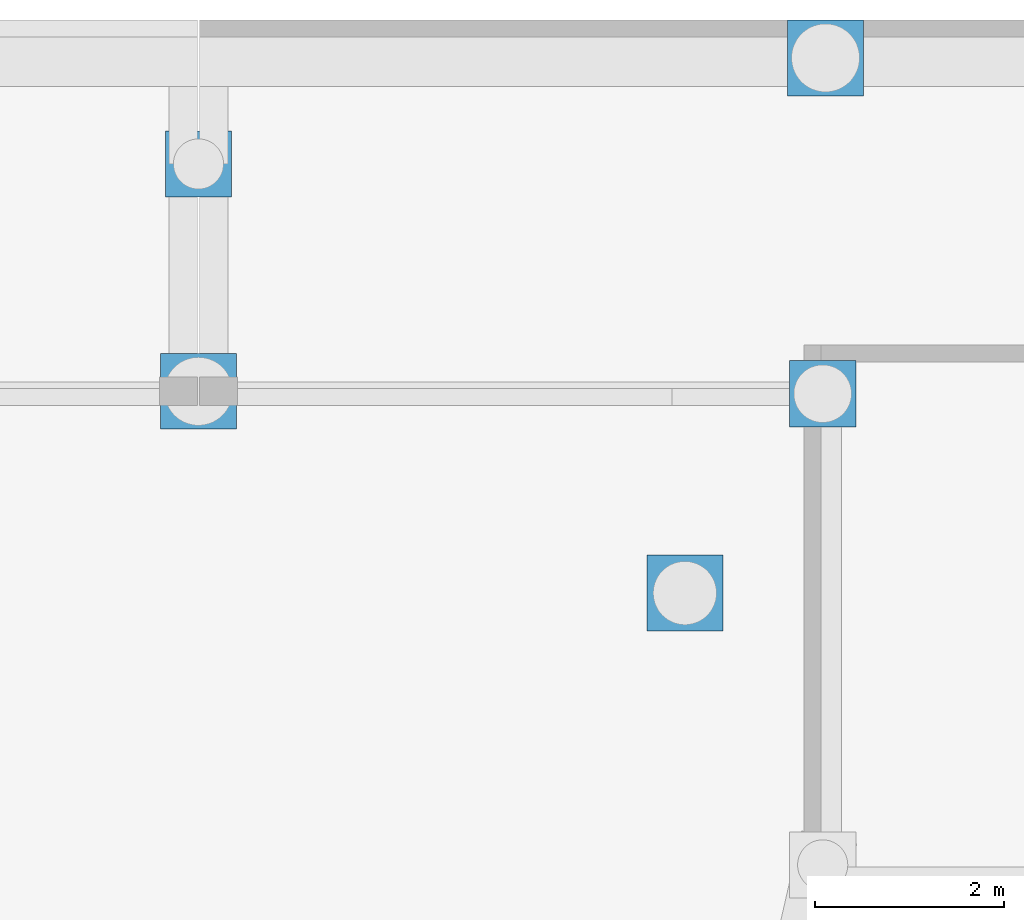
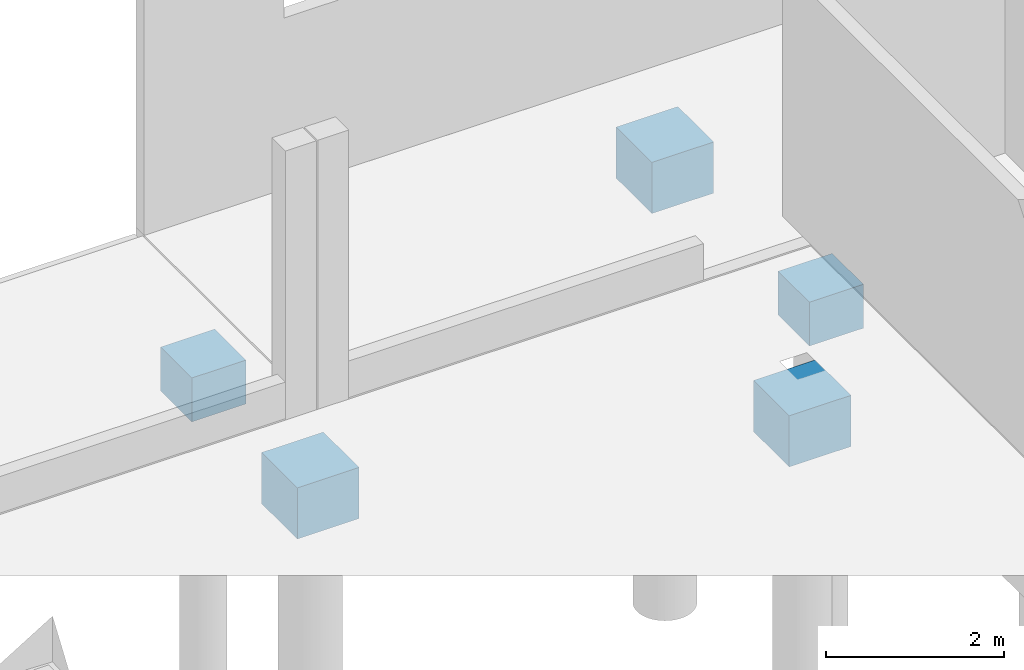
# One storey, part 16 of 29: 5 slabs.
"""IFC2X3 building model written with IfcOpenShell, lengths in centimetres."""

from ifc_helpers import new_model, entity, si_unit, converted_unit, derived_unit, direction, frame, origin, place, context, subcontext, project, spatial, faceted_brep, material, element, save


model = new_model("IFC2X3")

# Units and contexts
model_context = context("Model", 3, precision=0.001, world=origin(), true_north=direction((6.12303176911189e-17, 1.0)))
body_context = subcontext(model_context, "Body", "Model", "MODEL_VIEW")
ifc_project = project(units=[si_unit("LENGTHUNIT", "METRE", prefix="CENTI"), si_unit("AREAUNIT", "SQUARE_METRE"), si_unit("VOLUMEUNIT", "CUBIC_METRE"), converted_unit("PLANEANGLEUNIT", "DEGREE", entity("IfcRatioMeasure", 0.0174532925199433), si_unit("PLANEANGLEUNIT", "RADIAN"), dimensions=[0, 0, 0, 0, 0, 0, 0]), si_unit("MASSUNIT", "GRAM", prefix="KILO"), derived_unit("MASSDENSITYUNIT", [(si_unit("MASSUNIT", "GRAM", prefix="KILO"), 1), (si_unit("LENGTHUNIT", "METRE"), -3)]), si_unit("TIMEUNIT", "SECOND"), si_unit("FREQUENCYUNIT", "HERTZ"), si_unit("THERMODYNAMICTEMPERATUREUNIT", "DEGREE_CELSIUS"), derived_unit("THERMALTRANSMITTANCEUNIT", [(si_unit("MASSUNIT", "GRAM", prefix="KILO"), 1), (si_unit("THERMODYNAMICTEMPERATUREUNIT", "KELVIN"), -1), (si_unit("TIMEUNIT", "SECOND"), -3)]), derived_unit("VOLUMETRICFLOWRATEUNIT", [(si_unit("LENGTHUNIT", "METRE"), 3), (si_unit("TIMEUNIT", "SECOND"), -1)]), si_unit("ELECTRICCURRENTUNIT", "AMPERE"), si_unit("ELECTRICVOLTAGEUNIT", "VOLT"), si_unit("POWERUNIT", "WATT"), si_unit("FORCEUNIT", "NEWTON"), si_unit("ILLUMINANCEUNIT", "LUX"), si_unit("LUMINOUSFLUXUNIT", "LUMEN"), si_unit("LUMINOUSINTENSITYUNIT", "CANDELA"), derived_unit("USERDEFINED", [(si_unit("MASSUNIT", "GRAM", prefix="KILO"), -1), (si_unit("LENGTHUNIT", "METRE"), -2), (si_unit("TIMEUNIT", "SECOND"), 3), (si_unit("LUMINOUSFLUXUNIT", "LUMEN"), 1)]), derived_unit("LINEARVELOCITYUNIT", [(si_unit("LENGTHUNIT", "METRE"), 1), (si_unit("TIMEUNIT", "SECOND"), -1)]), si_unit("PRESSUREUNIT", "PASCAL"), derived_unit("USERDEFINED", [(si_unit("LENGTHUNIT", "METRE"), -2), (si_unit("MASSUNIT", "GRAM", prefix="KILO"), 1), (si_unit("TIMEUNIT", "SECOND"), -2)])], contexts=[model_context])

# Site, building, storey
site_placement = place(None, origin())
site = spatial("IfcSite", under=ifc_project, at=site_placement, Name="Default", CompositionType="ELEMENT")
building_placement = place(site_placement, origin())
building = spatial("IfcBuilding", under=site, at=building_placement, Name="CAGE 03", CompositionType="ELEMENT")
storey_placement = place(building_placement, frame((0.0, 0.0, -26.0)))
storey = spatial("IfcBuildingStorey", under=building, at=storey_placement, Name="+3.74", CompositionType="ELEMENT", Elevation=-26.0000000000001)

# Slabs
ifc_material = material(Name="Béton, C25/30")
slab_1_placement = place(storey_placement, frame((5847.86582014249, 4648.6606660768, -102.0)))
element("IfcSlab", 1, at=slab_1_placement, inside=storey, material=ifc_material, Name="M_Base-Rectangulaire:80x80x70ht", ObjectType="M_Base-Rectangulaire:80x80x70ht", PredefinedType="BASESLAB", context=body_context, shape_type="Brep", body=[
    faceted_brep([(80.0, 80.0, 70.0), (0.0, 80.0, 70.0), (0.0, 0.0, 70.0), (80.0, 0.0, 70.0), (0.0, 0.0, 0.0), (6.50000000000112, 40.0, 0.0), (8.6858003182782, 34.3577989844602, 0.0), (0.0, 80.0, 0.0), (10.8716006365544, 28.71559796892, 0.0), (13.0574009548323, 23.0733969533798, 0.0), (15.2432012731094, 17.4311959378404, 0.0), (22.2051484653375, 14.7341232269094, 0.0), (29.1670956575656, 12.0370505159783, 0.0), (36.1290428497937, 9.33997780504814, 0.0), (43.0909900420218, 6.6429050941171, 0.0), (80.0, 0.0, 0.0), (8.68580031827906, 45.6422010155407, 0.0), (10.8716006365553, 51.28440203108, 0.0), (13.0574009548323, 56.9266030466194, 0.0), (15.2432012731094, 62.5688040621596, 0.0), (20.6596534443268, 65.2658767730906, 0.0), (26.0761056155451, 67.9629494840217, 0.0), (31.4925577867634, 70.6600221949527, 0.0), (36.9090099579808, 73.3570949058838, 0.0), (80.0, 80.0, 0.0), (73.5000000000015, 40.0, 0.0), (71.3141996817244, 45.6422010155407, 0.0), (69.1283993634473, 51.28440203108, 0.0), (66.9425990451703, 56.9266030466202, 0.0), (64.7567987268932, 62.5688040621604, 0.0), (57.7948515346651, 65.2658767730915, 0.0), (50.8329043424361, 67.9629494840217, 0.0), (43.8709571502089, 70.6600221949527, 0.0), (48.5074422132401, 9.33997780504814, 0.0), (53.9238943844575, 12.0370505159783, 0.0), (59.3403465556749, 14.7341232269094, 0.0), (64.7567987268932, 17.4311959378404, 0.0), (66.9425990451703, 23.0733969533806, 0.0), (69.1283993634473, 28.7155979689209, 0.0), (71.3141996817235, 34.3577989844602, 0.0), (64.7567987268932, 17.4311959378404, 5.0), (57.7948515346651, 14.7341232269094, 5.0), (50.8329043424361, 12.0370505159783, 5.0), (43.8709571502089, 9.33997780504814, 5.0), (36.9090099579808, 6.6429050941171, 5.0), (31.4925577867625, 9.33997780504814, 5.0), (26.0761056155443, 12.0370505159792, 5.0), (20.6596534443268, 14.7341232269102, 5.0), (15.2432012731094, 17.4311959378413, 5.0), (13.0574009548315, 23.0733969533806, 5.0), (10.8716006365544, 28.7155979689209, 5.0), (9.32055531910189, 32.7193074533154, 5.0), (6.50000000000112, 40.0, 5.0), (9.32055531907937, 47.280692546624, 5.0), (10.8716006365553, 51.28440203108, 5.0), (13.0574009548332, 56.9266030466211, 5.0), (15.2432012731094, 62.5688040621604, 5.0), (22.2051484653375, 65.2658767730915, 5.0), (29.1670956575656, 67.9629494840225, 5.0), (36.1290428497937, 70.6600221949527, 5.0), (43.0909900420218, 73.3570949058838, 5.0), (48.5074422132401, 70.6600221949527, 5.0), (53.9238943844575, 67.9629494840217, 5.0), (59.3403465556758, 65.2658767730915, 5.0), (64.7567987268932, 62.5688040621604, 5.0), (66.9425990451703, 56.9266030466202, 5.0), (69.1283993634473, 51.28440203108, 5.0), (70.6794446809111, 47.2806925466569, 5.0), (73.5000000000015, 40.0, 5.0), (70.679444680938, 32.7193074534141, 5.0), (69.1283993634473, 28.7155979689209, 5.0), (66.9425990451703, 23.0733969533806, 5.0)], [[[0, 1, 2, 3]], [[4, 5, 6]], [[5, 4, 7]], [[4, 6, 8]], [[4, 8, 9]], [[4, 9, 10]], [[4, 10, 11]], [[4, 11, 12]], [[4, 12, 13]], [[4, 13, 14]], [[14, 15, 4]], [[7, 16, 5]], [[7, 17, 16]], [[7, 18, 17]], [[7, 19, 18]], [[7, 20, 19]], [[7, 21, 20]], [[7, 22, 21]], [[7, 23, 22]], [[23, 7, 24]], [[25, 24, 15]], [[24, 25, 26]], [[24, 26, 27]], [[24, 27, 28]], [[24, 28, 29]], [[24, 29, 30]], [[24, 30, 31]], [[24, 31, 32]], [[24, 32, 23]], [[15, 14, 33]], [[15, 33, 34]], [[15, 34, 35]], [[15, 35, 36]], [[15, 36, 37]], [[15, 37, 38]], [[15, 38, 39]], [[15, 39, 25]], [[2, 1, 7, 4]], [[3, 2, 4, 15]], [[0, 3, 15, 24]], [[1, 0, 24, 7]], [[40, 41, 42, 43, 44, 45, 46, 47, 48, 49, 50, 51, 52, 53, 54, 55, 56, 57, 58, 59, 60, 61, 62, 63, 64, 65, 66, 67, 68, 69, 70, 71]], [[6, 5, 52, 51, 50, 49, 48, 10, 9, 8]], [[39, 38, 37, 36, 40, 71, 70, 69, 68, 25]], [[48, 47, 10]], [[47, 46, 11]], [[36, 35, 40]], [[42, 33, 43]], [[35, 41, 40]], [[14, 13, 44]], [[12, 11, 46]], [[47, 11, 10]], [[35, 34, 41]], [[41, 34, 42]], [[12, 45, 13]], [[14, 43, 33]], [[42, 34, 33]], [[44, 13, 45]], [[12, 46, 45]], [[14, 44, 43]], [[26, 25, 68, 67, 66, 65, 64, 29, 28, 27]], [[16, 17, 18, 19, 56, 55, 54, 53, 52, 5]], [[64, 63, 29]], [[63, 62, 30]], [[19, 20, 56]], [[58, 22, 59]], [[20, 57, 56]], [[23, 32, 60]], [[31, 30, 62]], [[63, 30, 29]], [[20, 21, 57]], [[57, 21, 58]], [[31, 61, 32]], [[23, 59, 22]], [[58, 21, 22]], [[60, 32, 61]], [[31, 62, 61]], [[23, 60, 59]]]),
])
slab_2_placement = place(storey_placement, frame((5339.36582014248, 5106.66066607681, -140.0)))
element("IfcSlab", 2, at=slab_2_placement, inside=storey, material=ifc_material, Name="M_Base-Rectangulaire:70x70x60ht", ObjectType="M_Base-Rectangulaire:70x70x60ht", PredefinedType="BASESLAB", context=body_context, shape_type="Brep", body=[
    faceted_brep([(70.0, 70.0, 60.0), (0.0, 70.0, 60.0), (0.0, 0.0, 60.0), (70.0, 0.0, 60.0), (0.0, 0.0, 0.0), (17.2680389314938, 15.306662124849, 0.0), (22.3935302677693, 13.6412890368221, 0.0), (27.5190216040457, 11.9759159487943, 0.0), (32.6445129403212, 10.3105428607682, 0.0), (37.7700042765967, 8.64516977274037, 0.0), (70.0, 0.0, 0.0), (15.0760291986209, 20.2299965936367, 0.0), (12.884019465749, 25.1533310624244, 0.0), (10.692009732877, 30.0766655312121, 0.0), (8.50000000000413, 35.0, 0.0), (0.0, 70.0, 0.0), (11.0305248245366, 42.7881545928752, 0.0), (13.5610496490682, 50.5763091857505, 0.0), (18.2282861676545, 53.2709394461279, 0.0), (22.8955226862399, 55.9655697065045, 0.0), (27.5627592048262, 58.6601999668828, 0.0), (32.2299957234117, 61.3548302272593, 0.0), (70.0, 70.0, 0.0), (61.5000000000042, 35.0, 0.0), (59.3079902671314, 39.9233344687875, 0.0), (37.3554870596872, 59.6894571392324, 0.0), (42.4809783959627, 58.0240840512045, 0.0), (47.6064697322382, 56.3587109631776, 0.0), (52.7319610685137, 54.6933378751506, 0.0), (57.1159805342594, 44.8466689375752, 0.0), (54.9239708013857, 49.7700034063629, 0.0), (42.437240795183, 11.3398000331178, 0.0), (47.1044773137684, 14.0344302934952, 0.0), (51.7717138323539, 16.7290605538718, 0.0), (56.4389503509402, 19.4236908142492, 0.0), (58.9694751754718, 27.2118454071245, 0.0), (8.50000000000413, 35.0, 5.0), (10.692009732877, 39.9233344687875, 5.0), (12.884019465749, 44.8466689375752, 5.0), (15.0760291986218, 49.7700034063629, 5.0), (17.2680389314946, 54.6933378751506, 5.0), (22.3935302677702, 56.3587109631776, 5.0), (27.5190216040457, 58.0240840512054, 5.0), (32.6445129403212, 59.6894571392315, 5.0), (37.7700042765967, 61.3548302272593, 5.0), (42.437240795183, 58.6601999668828, 5.0), (47.1044773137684, 55.9655697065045, 5.0), (51.7717138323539, 53.2709394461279, 5.0), (56.4389503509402, 50.5763091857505, 5.0), (58.9694751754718, 42.7881545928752, 5.0), (61.5000000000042, 35.0, 5.0), (59.3079902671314, 30.0766655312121, 5.0), (57.1159805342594, 25.1533310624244, 5.0), (54.9239708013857, 20.2299965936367, 5.0), (52.7319610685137, 15.306662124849, 5.0), (47.6064697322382, 13.6412890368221, 5.0), (42.4809783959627, 11.9759159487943, 5.0), (37.3554870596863, 10.3105428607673, 5.0), (32.2299957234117, 8.64516977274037, 5.0), (27.5627592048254, 11.3398000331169, 5.0), (22.895522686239, 14.0344302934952, 5.0), (18.2282861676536, 16.7290605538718, 5.0), (13.5610496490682, 19.4236908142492, 5.0), (11.0305248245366, 27.2118454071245, 5.0)], [[[0, 1, 2, 3]], [[4, 5, 6]], [[4, 6, 7]], [[4, 7, 8]], [[4, 8, 9]], [[4, 9, 10]], [[4, 11, 5]], [[4, 12, 11]], [[4, 13, 12]], [[4, 14, 13]], [[15, 14, 4]], [[15, 16, 14]], [[15, 17, 16]], [[15, 18, 17]], [[15, 19, 18]], [[15, 20, 19]], [[15, 21, 20]], [[22, 21, 15]], [[10, 23, 22]], [[22, 23, 24]], [[22, 25, 21]], [[22, 26, 25]], [[22, 27, 26]], [[22, 28, 27]], [[22, 24, 29]], [[22, 29, 30]], [[22, 30, 28]], [[10, 9, 31]], [[10, 31, 32]], [[10, 32, 33]], [[10, 33, 34]], [[10, 34, 35]], [[10, 35, 23]], [[2, 1, 15, 4]], [[3, 2, 4, 10]], [[0, 3, 10, 22]], [[1, 0, 22, 15]], [[36, 37, 38, 39, 40, 41, 42, 43, 44, 45, 46, 47, 48, 49, 50, 51, 52, 53, 54, 55, 56, 57, 58, 59, 60, 61, 62, 63]], [[11, 12, 62]], [[63, 13, 36]], [[63, 62, 12]], [[62, 61, 11]], [[35, 34, 52]], [[59, 58, 7]], [[36, 13, 14]], [[32, 55, 33]], [[6, 5, 60]], [[34, 33, 54]], [[35, 51, 23]], [[7, 58, 8]], [[60, 5, 61]], [[12, 13, 63]], [[57, 8, 58]], [[61, 5, 11]], [[56, 55, 32]], [[6, 59, 7]], [[54, 33, 55]], [[53, 52, 34, 54]], [[57, 9, 8]], [[31, 9, 56, 32]], [[6, 60, 59]], [[50, 23, 51]], [[57, 56, 9]], [[35, 52, 51]], [[30, 29, 48]], [[49, 24, 50]], [[49, 48, 29]], [[48, 47, 30]], [[46, 28, 47]], [[45, 27, 46]], [[50, 24, 23]], [[21, 43, 20]], [[45, 44, 26]], [[39, 38, 17, 40]], [[16, 37, 14]], [[26, 44, 25]], [[29, 24, 49]], [[43, 21, 25]], [[47, 28, 30]], [[42, 41, 19]], [[27, 28, 46]], [[16, 17, 38]], [[45, 26, 27]], [[36, 14, 37]], [[42, 20, 43]], [[40, 18, 41]], [[19, 41, 18]], [[40, 17, 18]], [[43, 25, 44]], [[42, 19, 20]], [[16, 38, 37]]]),
])
slab_3_placement = place(storey_placement, frame((5996.36582014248, 5213.6606660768, -150.0)))
element("IfcSlab", 3, at=slab_3_placement, inside=storey, material=ifc_material, Name="M_Base-Rectangulaire:80x80x70ht", ObjectType="M_Base-Rectangulaire:80x80x70ht", PredefinedType="BASESLAB", context=body_context, shape_type="Brep", body=[
    faceted_brep([(40.0, 80.0, 70.0), (0.0, 80.0, 70.0), (0.0, 0.0, 70.0), (80.0, 0.0, 70.0), (80.0, 80.0, 70.0), (0.0, 0.0, 0.0), (4.0, 40.0, 0.0), (6.34891974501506, 33.9367392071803, 0.0), (0.0, 80.0, 0.0), (8.69783949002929, 27.8734784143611, 0.0), (11.0467592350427, 21.8102176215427, 0.0), (13.3956789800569, 15.7469568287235, 0.0), (20.8771744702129, 12.8486100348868, 0.0), (28.3586699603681, 9.9502632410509, 0.0), (35.8401654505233, 7.05191644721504, 0.0), (43.3216609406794, 4.15356965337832, 0.0), (80.0, 0.0, 0.0), (6.34891974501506, 46.0632607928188, 0.0), (8.69783949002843, 52.126521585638, 0.0), (11.0467592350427, 58.1897823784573, 0.0), (13.3956789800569, 64.2530431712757, 0.0), (19.2163439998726, 67.1513899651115, 0.0), (25.0370090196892, 70.0497367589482, 0.0), (30.8576740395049, 72.9480835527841, 0.0), (36.6783390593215, 75.8464303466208, 0.0), (80.0, 80.0, 0.0), (76.0, 40.0, 0.0), (73.6510802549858, 46.0632607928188, 0.0), (71.3021605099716, 52.126521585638, 0.0), (68.9532407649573, 58.1897823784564, 0.0), (66.604321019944, 64.2530431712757, 0.0), (59.1228255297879, 67.1513899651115, 0.0), (51.6413300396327, 70.0497367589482, 0.0), (44.1598345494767, 72.948083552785, 0.0), (49.1423259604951, 7.05191644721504, 0.0), (54.9629909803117, 9.9502632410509, 0.0), (60.7836560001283, 12.8486100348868, 0.0), (66.604321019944, 15.7469568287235, 0.0), (68.9532407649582, 21.8102176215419, 0.0), (71.3021605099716, 27.8734784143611, 0.0), (73.6510802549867, 33.9367392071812, 0.0), (66.6043210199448, 15.7469568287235, 5.0), (59.1228255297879, 12.8486100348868, 5.0), (51.6413300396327, 9.9502632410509, 5.0), (44.1598345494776, 7.05191644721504, 5.0), (36.6783390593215, 4.15356965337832, 5.0), (30.8576740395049, 7.05191644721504, 5.0), (25.0370090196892, 9.9502632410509, 5.0), (19.2163439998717, 12.8486100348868, 5.0), (13.3956789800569, 15.7469568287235, 5.0), (11.0467592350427, 21.8102176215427, 5.0), (8.69783949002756, 27.8734784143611, 5.0), (6.92390641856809, 32.4525275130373, 5.0), (4.0, 40.0, 5.0), (6.92390641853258, 47.5474724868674, 5.0), (8.69783949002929, 52.126521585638, 5.0), (11.0467592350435, 58.1897823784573, 5.0), (13.3956789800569, 64.2530431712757, 5.0), (20.8771744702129, 67.1513899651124, 5.0), (28.3586699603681, 70.0497367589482, 5.0), (35.8401654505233, 72.9480835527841, 5.0), (43.3216609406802, 75.8464303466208, 5.0), (49.142325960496, 72.9480835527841, 5.0), (54.9629909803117, 70.0497367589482, 5.0), (60.7836560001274, 67.1513899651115, 5.0), (66.6043210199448, 64.2530431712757, 5.0), (68.9532407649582, 58.1897823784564, 5.0), (71.3021605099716, 52.1265215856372, 5.0), (73.0760935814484, 47.5474724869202, 5.0), (76.0, 40.0, 5.0), (73.0760935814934, 32.452527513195, 5.0), (71.3021605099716, 27.8734784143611, 5.0), (68.9532407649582, 21.8102176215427, 5.0)], [[[0, 1, 2, 3, 4]], [[5, 6, 7]], [[6, 5, 8]], [[5, 7, 9]], [[5, 9, 10]], [[5, 10, 11]], [[5, 11, 12]], [[5, 12, 13]], [[5, 13, 14]], [[5, 14, 15]], [[15, 16, 5]], [[8, 17, 6]], [[8, 18, 17]], [[8, 19, 18]], [[8, 20, 19]], [[8, 21, 20]], [[8, 22, 21]], [[8, 23, 22]], [[8, 24, 23]], [[24, 8, 25]], [[26, 25, 16]], [[25, 26, 27]], [[25, 27, 28]], [[25, 28, 29]], [[25, 29, 30]], [[25, 30, 31]], [[25, 31, 32]], [[25, 32, 33]], [[25, 33, 24]], [[16, 15, 34]], [[16, 34, 35]], [[16, 35, 36]], [[16, 36, 37]], [[16, 37, 38]], [[16, 38, 39]], [[16, 39, 40]], [[16, 40, 26]], [[2, 1, 8, 5]], [[3, 2, 5, 16]], [[4, 3, 16, 25]], [[0, 4, 25, 8, 1]], [[41, 42, 43, 44, 45, 46, 47, 48, 49, 50, 51, 52, 53, 54, 55, 56, 57, 58, 59, 60, 61, 62, 63, 64, 65, 66, 67, 68, 69, 70, 71, 72]], [[7, 6, 53, 52, 51, 50, 49, 11, 10, 9]], [[40, 39, 38, 37, 41, 72, 71, 70, 69, 26]], [[49, 48, 11]], [[48, 47, 12]], [[37, 36, 41]], [[43, 34, 44]], [[36, 42, 41]], [[15, 14, 45]], [[13, 12, 47]], [[48, 12, 11]], [[36, 35, 42]], [[42, 35, 43]], [[13, 46, 14]], [[15, 44, 34]], [[43, 35, 34]], [[45, 14, 46]], [[13, 47, 46]], [[15, 45, 44]], [[27, 26, 69, 68, 67, 66, 65, 30, 29, 28]], [[17, 18, 19, 20, 57, 56, 55, 54, 53, 6]], [[65, 64, 30]], [[64, 63, 31]], [[20, 21, 57]], [[59, 23, 60]], [[21, 58, 57]], [[24, 33, 61]], [[32, 31, 63]], [[64, 31, 30]], [[21, 22, 58]], [[58, 22, 59]], [[32, 62, 33]], [[24, 60, 23]], [[59, 22, 23]], [[61, 33, 62]], [[32, 63, 62]], [[24, 61, 60]]]),
])
slab_4_placement = place(storey_placement, frame((5334.36582014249, 4861.66066607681, -150.0)))
element("IfcSlab", 4, at=slab_4_placement, inside=storey, material=ifc_material, Name="M_Base-Rectangulaire:80x80x70ht", ObjectType="M_Base-Rectangulaire:80x80x70ht", PredefinedType="BASESLAB", context=body_context, shape_type="Brep", body=[
    faceted_brep([(80.0, 80.0, 70.0), (0.0, 80.0, 70.0), (0.0, 0.0, 70.0), (80.0, 0.0, 70.0), (0.0, 0.0, 0.0), (13.395678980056, 15.7469568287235, 0.0), (20.8771744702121, 12.8486100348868, 0.0), (28.3586699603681, 9.9502632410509, 0.0), (35.8401654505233, 7.05191644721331, 0.0), (43.3216609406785, 4.15356965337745, 0.0), (80.0, 0.0, 0.0), (11.0467592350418, 21.8102176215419, 0.0), (8.69783949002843, 27.8734784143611, 0.0), (6.34891974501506, 33.9367392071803, 0.0), (4.0, 40.0, 0.0), (0.0, 80.0, 0.0), (6.34891974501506, 46.0632607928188, 0.0), (8.69783949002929, 52.1265215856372, 0.0), (11.0467592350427, 58.1897823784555, 0.0), (13.3956789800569, 64.2530431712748, 0.0), (19.2163439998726, 67.1513899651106, 0.0), (25.0370090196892, 70.0497367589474, 0.0), (30.8576740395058, 72.9480835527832, 0.0), (36.6783390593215, 75.84643034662, 0.0), (80.0, 80.0, 0.0), (76.0, 40.0, 0.0), (73.6510802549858, 46.0632607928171, 0.0), (44.1598345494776, 72.9480835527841, 0.0), (51.6413300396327, 70.0497367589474, 0.0), (59.1228255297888, 67.1513899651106, 0.0), (66.604321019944, 64.2530431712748, 0.0), (71.3021605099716, 52.1265215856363, 0.0), (68.9532407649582, 58.1897823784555, 0.0), (49.1423259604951, 7.05191644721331, 0.0), (54.9629909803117, 9.95026324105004, 0.0), (60.7836560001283, 12.8486100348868, 0.0), (66.604321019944, 15.7469568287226, 0.0), (68.9532407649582, 21.8102176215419, 0.0), (71.3021605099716, 27.8734784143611, 0.0), (73.6510802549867, 33.9367392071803, 0.0), (66.6043210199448, 15.7469568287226, 5.0), (59.1228255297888, 12.8486100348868, 5.0), (51.6413300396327, 9.95026324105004, 5.0), (44.1598345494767, 7.05191644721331, 5.0), (36.6783390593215, 4.15356965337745, 5.0), (30.8576740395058, 7.05191644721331, 5.0), (25.0370090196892, 9.95026324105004, 5.0), (19.2163439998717, 12.8486100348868, 5.0), (13.3956789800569, 15.7469568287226, 5.0), (11.0467592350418, 21.8102176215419, 5.0), (8.69783949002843, 27.8734784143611, 5.0), (6.92390641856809, 32.4525275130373, 5.0), (4.0, 40.0, 5.0), (6.92390641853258, 47.5474724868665, 5.0), (8.69783949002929, 52.1265215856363, 5.0), (11.0467592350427, 58.1897823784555, 5.0), (13.3956789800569, 64.2530431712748, 5.0), (20.8771744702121, 67.1513899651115, 5.0), (28.3586699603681, 70.0497367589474, 5.0), (35.8401654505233, 72.9480835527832, 5.0), (43.3216609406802, 75.84643034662, 5.0), (49.1423259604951, 72.9480835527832, 5.0), (54.9629909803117, 70.0497367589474, 5.0), (60.7836560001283, 67.1513899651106, 5.0), (66.6043210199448, 64.2530431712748, 5.0), (68.9532407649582, 58.1897823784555, 5.0), (71.3021605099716, 52.1265215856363, 5.0), (73.0760935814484, 47.5474724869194, 5.0), (76.0, 40.0, 5.0), (73.0760935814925, 32.4525275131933, 5.0), (71.3021605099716, 27.8734784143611, 5.0), (68.9532407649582, 21.8102176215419, 5.0)], [[[0, 1, 2, 3]], [[4, 5, 6]], [[4, 6, 7]], [[4, 7, 8]], [[4, 8, 9]], [[4, 9, 10]], [[4, 11, 5]], [[4, 12, 11]], [[4, 13, 12]], [[4, 14, 13]], [[15, 14, 4]], [[15, 16, 14]], [[15, 17, 16]], [[15, 18, 17]], [[15, 19, 18]], [[15, 20, 19]], [[15, 21, 20]], [[15, 22, 21]], [[15, 23, 22]], [[24, 23, 15]], [[10, 25, 24]], [[24, 25, 26]], [[24, 27, 23]], [[24, 28, 27]], [[24, 29, 28]], [[24, 30, 29]], [[24, 26, 31]], [[24, 31, 32]], [[24, 32, 30]], [[10, 9, 33]], [[10, 33, 34]], [[10, 34, 35]], [[10, 35, 36]], [[10, 36, 37]], [[10, 37, 38]], [[10, 38, 39]], [[10, 39, 25]], [[2, 1, 15, 4]], [[3, 2, 4, 10]], [[0, 3, 10, 24]], [[1, 0, 24, 15]], [[40, 41, 42, 43, 44, 45, 46, 47, 48, 49, 50, 51, 52, 53, 54, 55, 56, 57, 58, 59, 60, 61, 62, 63, 64, 65, 66, 67, 68, 69, 70, 71]], [[13, 14, 52, 51, 50, 49, 48, 5, 11, 12]], [[39, 38, 37, 36, 40, 71, 70, 69, 68, 25]], [[48, 47, 5]], [[47, 46, 6]], [[36, 35, 40]], [[42, 33, 43]], [[35, 41, 40]], [[9, 8, 44]], [[7, 6, 46]], [[47, 6, 5]], [[35, 34, 41]], [[41, 34, 42]], [[7, 45, 8]], [[9, 43, 33]], [[42, 34, 33]], [[44, 8, 45]], [[7, 46, 45]], [[9, 44, 43]], [[26, 25, 68, 67, 66, 65, 64, 30, 32, 31]], [[16, 17, 18, 19, 56, 55, 54, 53, 52, 14]], [[64, 63, 30]], [[63, 62, 29]], [[19, 20, 56]], [[58, 22, 59]], [[20, 57, 56]], [[23, 27, 60]], [[28, 29, 62]], [[63, 29, 30]], [[20, 21, 57]], [[57, 21, 58]], [[28, 61, 27]], [[23, 59, 22]], [[58, 21, 22]], [[60, 27, 61]], [[28, 62, 61]], [[23, 60, 59]]]),
])
slab_5_placement = place(storey_placement, frame((5998.36582014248, 4864.1606660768, -120.0)))
element("IfcSlab", 5, at=slab_5_placement, inside=storey, material=ifc_material, Name="M_Base-Rectangulaire:70x70x60ht", ObjectType="M_Base-Rectangulaire:70x70x60ht", PredefinedType="BASESLAB", context=body_context, shape_type="Brep", body=[
    faceted_brep([(70.0, 70.0, 60.0), (0.0, 70.0, 60.0), (0.0, 0.0, 60.0), (70.0, 0.0, 60.0), (0.0, 0.0, 0.0), (13.4332431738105, 13.4332431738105, 0.0), (18.8249323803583, 11.1999323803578, 0.0), (24.2166215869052, 8.9666215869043, 0.0), (29.6083107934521, 6.73331079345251, 0.0), (35.0, 4.49999999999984, 0.0), (70.0, 0.0, 0.0), (11.1999323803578, 18.8249323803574, 0.0), (8.96662158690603, 24.2166215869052, 0.0), (6.73331079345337, 29.6083107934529, 0.0), (4.50000000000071, 35.0, 0.0), (0.0, 70.0, 0.0), (6.73331079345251, 40.3916892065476, 0.0), (8.96662158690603, 45.7833784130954, 0.0), (11.1999323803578, 51.1750676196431, 0.0), (13.4332431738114, 56.5667568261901, 0.0), (18.8249323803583, 58.8000676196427, 0.0), (24.216621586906, 61.0333784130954, 0.0), (29.6083107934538, 63.2666892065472, 0.0), (35.0, 65.4999999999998, 0.0), (70.0, 70.0, 0.0), (65.5000000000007, 35.0, 0.0), (63.266689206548, 40.3916892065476, 0.0), (40.3916892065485, 63.2666892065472, 0.0), (45.7833784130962, 61.0333784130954, 0.0), (51.1750676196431, 58.8000676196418, 0.0), (56.5667568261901, 56.5667568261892, 0.0), (61.0333784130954, 45.7833784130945, 0.0), (58.8000676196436, 51.1750676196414, 0.0), (40.3916892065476, 6.73331079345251, 0.0), (45.7833784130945, 8.9666215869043, 0.0), (51.1750676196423, 11.199932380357, 0.0), (56.5667568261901, 13.4332431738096, 0.0), (58.8000676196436, 18.8249323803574, 0.0), (61.0333784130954, 24.2166215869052, 0.0), (63.2666892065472, 29.6083107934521, 0.0), (35.0, 65.4999999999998, 5.0), (40.3916892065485, 63.2666892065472, 5.0), (45.7833784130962, 61.0333784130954, 5.0), (51.1750676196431, 58.8000676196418, 5.0), (56.5667568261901, 56.5667568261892, 5.0), (59.8147856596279, 48.7253215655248, 5.0), (62.6573928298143, 41.8626607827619, 5.0), (65.5000000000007, 35.0, 5.0), (62.6573928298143, 28.1373392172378, 5.0), (61.0333784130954, 24.2166215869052, 5.0), (58.8000676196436, 18.8249323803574, 5.0), (56.5667568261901, 13.4332431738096, 5.0), (51.1750676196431, 11.199932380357, 5.0), (45.7833784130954, 8.9666215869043, 5.0), (40.3916892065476, 6.73331079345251, 5.0), (35.0, 4.49999999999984, 5.0), (29.6083107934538, 6.73331079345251, 5.0), (24.2166215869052, 8.96662158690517, 5.0), (18.8249323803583, 11.1999323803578, 5.0), (13.4332431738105, 13.4332431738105, 5.0), (10.1852143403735, 21.274678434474, 5.0), (7.3426071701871, 28.1373392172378, 5.0), (4.50000000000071, 35.0, 5.0), (7.34260717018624, 41.8626607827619, 5.0), (8.96662158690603, 45.7833784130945, 5.0), (11.1999323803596, 51.1750676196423, 5.0), (13.4332431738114, 56.5667568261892, 5.0), (18.8249323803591, 58.8000676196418, 5.0), (24.2166215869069, 61.0333784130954, 5.0), (29.6083107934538, 63.2666892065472, 5.0)], [[[0, 1, 2, 3]], [[4, 5, 6]], [[4, 6, 7]], [[4, 7, 8]], [[4, 8, 9]], [[4, 9, 10]], [[4, 11, 5]], [[4, 12, 11]], [[4, 13, 12]], [[4, 14, 13]], [[15, 14, 4]], [[15, 16, 14]], [[15, 17, 16]], [[15, 18, 17]], [[15, 19, 18]], [[15, 20, 19]], [[15, 21, 20]], [[15, 22, 21]], [[15, 23, 22]], [[24, 23, 15]], [[10, 25, 24]], [[24, 25, 26]], [[24, 27, 23]], [[24, 28, 27]], [[24, 29, 28]], [[24, 30, 29]], [[24, 26, 31]], [[24, 31, 32]], [[24, 32, 30]], [[10, 9, 33]], [[10, 33, 34]], [[10, 34, 35]], [[10, 35, 36]], [[10, 36, 37]], [[10, 37, 38]], [[10, 38, 39]], [[10, 39, 25]], [[2, 1, 15, 4]], [[3, 2, 4, 10]], [[0, 3, 10, 24]], [[1, 0, 24, 15]], [[40, 41, 42, 43, 44, 45, 46, 47, 48, 49, 50, 51, 52, 53, 54, 55, 56, 57, 58, 59, 60, 61, 62, 63, 64, 65, 66, 67, 68, 69]], [[5, 59, 58, 57, 56, 55, 9, 8, 7, 6]], [[39, 38, 37, 36, 51, 50, 49, 48, 47, 25]], [[5, 11, 12, 13, 14, 62, 61, 60, 59]], [[33, 9, 55, 54, 53, 52, 51, 36, 35, 34]], [[30, 44, 43, 42, 41, 40, 23, 27, 28, 29]], [[16, 17, 18, 19, 66, 65, 64, 63, 62, 14]], [[30, 32, 31, 26, 25, 47, 46, 45, 44]], [[22, 23, 40, 69, 68, 67, 66, 19, 20, 21]]]),
])

save(model, "model.ifc")
